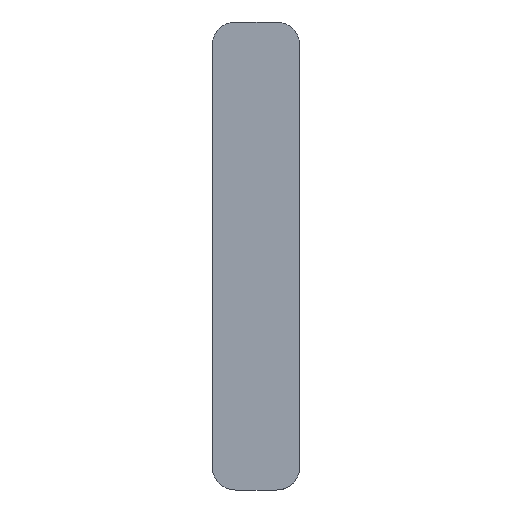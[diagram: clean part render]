
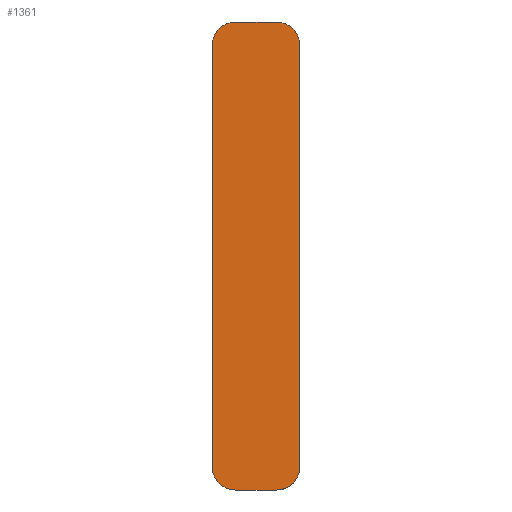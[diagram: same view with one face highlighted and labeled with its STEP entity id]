
A CAD part, left-side view. The second image highlights one B-rep face of the part: STEP entity #1361.
In plain terms, the highlighted planar face has unit normal (-1, 0, 0).
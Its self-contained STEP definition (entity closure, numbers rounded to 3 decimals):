
#624=PLANE('',#1322);
#630=CIRCLE('',#1291,4.);
#633=CIRCLE('',#1296,4.);
#640=CIRCLE('',#1305,4.);
#641=CIRCLE('',#1309,4.);
#712=ORIENTED_EDGE('',*,*,#908,.F.);
#713=ORIENTED_EDGE('',*,*,#911,.F.);
#714=ORIENTED_EDGE('',*,*,#914,.F.);
#715=ORIENTED_EDGE('',*,*,#917,.F.);
#716=ORIENTED_EDGE('',*,*,#884,.F.);
#717=ORIENTED_EDGE('',*,*,#888,.F.);
#718=ORIENTED_EDGE('',*,*,#892,.F.);
#719=ORIENTED_EDGE('',*,*,#895,.F.);
#772=VECTOR('',#1033,1.);
#776=VECTOR('',#1047,1.);
#785=VECTOR('',#1074,1.);
#789=VECTOR('',#1086,1.);
#807=LINE('',#1166,#772);
#811=LINE('',#1180,#776);
#820=LINE('',#1212,#785);
#824=LINE('',#1223,#789);
#839=VERTEX_POINT('',#1154);
#841=VERTEX_POINT('',#1157);
#843=VERTEX_POINT('',#1163);
#846=VERTEX_POINT('',#1171);
#848=VERTEX_POINT('',#1177);
#860=VERTEX_POINT('',#1203);
#862=VERTEX_POINT('',#1209);
#864=VERTEX_POINT('',#1215);
#884=EDGE_CURVE('',#839,#841,#630,.T.);
#888=EDGE_CURVE('',#843,#839,#807,.T.);
#892=EDGE_CURVE('',#846,#843,#633,.T.);
#895=EDGE_CURVE('',#848,#846,#811,.T.);
#908=EDGE_CURVE('',#860,#848,#640,.T.);
#911=EDGE_CURVE('',#862,#860,#820,.T.);
#914=EDGE_CURVE('',#864,#862,#641,.T.);
#917=EDGE_CURVE('',#841,#864,#824,.T.);
#960=EDGE_LOOP('',(#712,#713,#714,#715,#716,#717,#718,#719));
#1001=FACE_BOUND('',#960,.T.);
#1025=DIRECTION('',(1.,0.,0.));
#1026=DIRECTION('',(0.,0.,4.));
#1033=DIRECTION('',(0.,-7.,0.));
#1040=DIRECTION('',(1.,0.,0.));
#1041=DIRECTION('',(0.,0.,4.));
#1047=DIRECTION('',(0.,0.,72.));
#1067=DIRECTION('',(1.,0.,0.));
#1068=DIRECTION('',(0.,0.,4.));
#1074=DIRECTION('',(0.,7.,0.));
#1079=DIRECTION('',(1.,0.,0.));
#1080=DIRECTION('',(0.,0.,4.));
#1086=DIRECTION('',(0.,0.,-72.));
#1113=DIRECTION('',(-1.,0.,0.));
#1114=DIRECTION('',(0.,1.,0.));
#1154=CARTESIAN_POINT('',(755.,4.,40.));
#1157=CARTESIAN_POINT('',(755.,0.,36.));
#1158=CARTESIAN_POINT('',(755.,4.,36.));
#1163=CARTESIAN_POINT('',(755.,11.,40.));
#1166=CARTESIAN_POINT('',(755.,11.,40.));
#1171=CARTESIAN_POINT('',(755.,15.,36.));
#1174=CARTESIAN_POINT('',(755.,11.,36.));
#1177=CARTESIAN_POINT('',(755.,15.,-36.));
#1180=CARTESIAN_POINT('',(755.,15.,-36.));
#1203=CARTESIAN_POINT('',(755.,11.,-40.));
#1206=CARTESIAN_POINT('',(755.,11.,-36.));
#1209=CARTESIAN_POINT('',(755.,4.,-40.));
#1212=CARTESIAN_POINT('',(755.,4.,-40.));
#1215=CARTESIAN_POINT('',(755.,0.,-36.));
#1218=CARTESIAN_POINT('',(755.,4.,-36.));
#1223=CARTESIAN_POINT('',(755.,0.,36.));
#1253=CARTESIAN_POINT('',(755.,7.5,0.));
#1291=AXIS2_PLACEMENT_3D('',#1158,#1025,#1026);
#1296=AXIS2_PLACEMENT_3D('',#1174,#1040,#1041);
#1305=AXIS2_PLACEMENT_3D('',#1206,#1067,#1068);
#1309=AXIS2_PLACEMENT_3D('',#1218,#1079,#1080);
#1322=AXIS2_PLACEMENT_3D('',#1253,#1113,#1114);
#1361=ADVANCED_FACE('',(#1001),#624,.T.);
